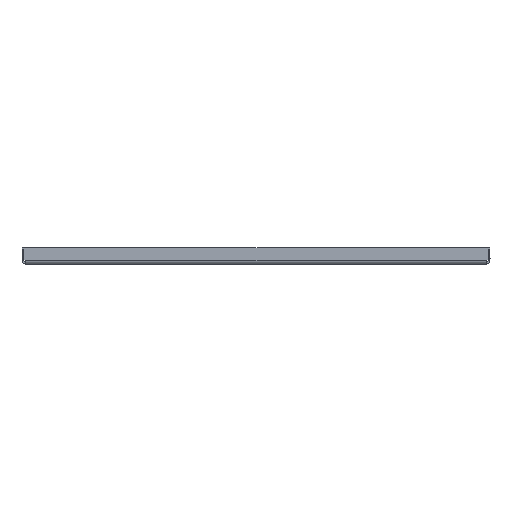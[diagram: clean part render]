
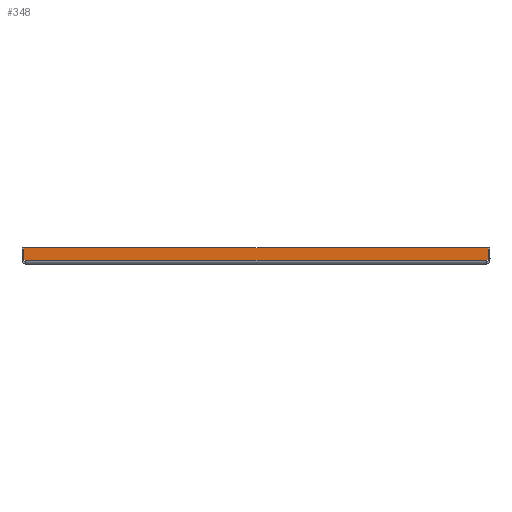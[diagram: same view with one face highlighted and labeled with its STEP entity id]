
A CAD part, front view. The second image highlights one B-rep face of the part: STEP entity #348.
In plain terms, the highlighted planar face has unit normal (0, -1, 0).
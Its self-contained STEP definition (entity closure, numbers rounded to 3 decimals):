
#36 = VERTEX_POINT ( 'NONE', #1349 ) ;
#64 = CARTESIAN_POINT ( 'NONE',  ( 2., -40.86, 2. ) ) ;
#79 = AXIS2_PLACEMENT_3D ( 'NONE', #1279, #215, #2183 ) ;
#215 = DIRECTION ( 'NONE',  ( 0., 1., 0. ) ) ;
#251 = ORIENTED_EDGE ( 'NONE', *, *, #2553, .F. ) ;
#328 = LINE ( 'NONE', #2481, #2557 ) ;
#332 = LINE ( 'NONE', #1853, #2686 ) ;
#348 = ADVANCED_FACE ( 'NONE', ( #642 ), #1484, .F. ) ;
#440 = EDGE_CURVE ( 'NONE', #1916, #1258, #659, .T. ) ;
#541 = CARTESIAN_POINT ( 'NONE',  ( 492.9, -40.86, 2. ) ) ;
#587 = EDGE_CURVE ( 'NONE', #1258, #36, #1847, .T. ) ;
#642 = FACE_OUTER_BOUND ( 'NONE', #2654, .T. ) ;
#659 = LINE ( 'NONE', #2113, #1970 ) ;
#672 = DIRECTION ( 'NONE',  ( 0., 0., 1. ) ) ;
#768 = CARTESIAN_POINT ( 'NONE',  ( 492.9, -40.86, 15. ) ) ;
#782 = DIRECTION ( 'NONE',  ( -1., 0., 0. ) ) ;
#797 = VECTOR ( 'NONE', #2006, 1000. ) ;
#858 = VECTOR ( 'NONE', #1100, 1000. ) ;
#882 = ORIENTED_EDGE ( 'NONE', *, *, #902, .T. ) ;
#902 = EDGE_CURVE ( 'NONE', #953, #1916, #332, .T. ) ;
#953 = VERTEX_POINT ( 'NONE', #2004 ) ;
#1100 = DIRECTION ( 'NONE',  ( -1., 0., 0. ) ) ;
#1214 = VERTEX_POINT ( 'NONE', #1395 ) ;
#1253 = EDGE_CURVE ( 'NONE', #953, #1214, #328, .T. ) ;
#1258 = VERTEX_POINT ( 'NONE', #768 ) ;
#1279 = CARTESIAN_POINT ( 'NONE',  ( 0., -40.86, 0. ) ) ;
#1296 = CARTESIAN_POINT ( 'NONE',  ( 0.1, -40.86, 2. ) ) ;
#1349 = CARTESIAN_POINT ( 'NONE',  ( 0.1, -40.86, 15. ) ) ;
#1395 = CARTESIAN_POINT ( 'NONE',  ( 2., -40.86, 2. ) ) ;
#1484 = PLANE ( 'NONE',  #79 ) ;
#1684 = DIRECTION ( 'NONE',  ( 0., 0., 1. ) ) ;
#1815 = CARTESIAN_POINT ( 'NONE',  ( 0., -40.86, 15. ) ) ;
#1847 = LINE ( 'NONE', #1815, #797 ) ;
#1853 = CARTESIAN_POINT ( 'NONE',  ( 491., -40.86, 2. ) ) ;
#1875 = LINE ( 'NONE', #1296, #1992 ) ;
#1916 = VERTEX_POINT ( 'NONE', #541 ) ;
#1970 = VECTOR ( 'NONE', #1684, 1000. ) ;
#1992 = VECTOR ( 'NONE', #672, 1000. ) ;
#2004 = CARTESIAN_POINT ( 'NONE',  ( 491., -40.86, 2. ) ) ;
#2006 = DIRECTION ( 'NONE',  ( -1., 0., 0. ) ) ;
#2113 = CARTESIAN_POINT ( 'NONE',  ( 492.9, -40.86, 2. ) ) ;
#2131 = ORIENTED_EDGE ( 'NONE', *, *, #440, .T. ) ;
#2142 = ORIENTED_EDGE ( 'NONE', *, *, #2384, .F. ) ;
#2179 = CARTESIAN_POINT ( 'NONE',  ( 0.1, -40.86, 2. ) ) ;
#2183 = DIRECTION ( 'NONE',  ( 0., 0., 1. ) ) ;
#2222 = ORIENTED_EDGE ( 'NONE', *, *, #1253, .F. ) ;
#2368 = ORIENTED_EDGE ( 'NONE', *, *, #587, .T. ) ;
#2384 = EDGE_CURVE ( 'NONE', #1214, #2503, #2606, .T. ) ;
#2481 = CARTESIAN_POINT ( 'NONE',  ( 2., -40.86, 2. ) ) ;
#2503 = VERTEX_POINT ( 'NONE', #2179 ) ;
#2553 = EDGE_CURVE ( 'NONE', #2503, #36, #1875, .T. ) ;
#2557 = VECTOR ( 'NONE', #782, 1000. ) ;
#2606 = LINE ( 'NONE', #64, #858 ) ;
#2654 = EDGE_LOOP ( 'NONE', ( #2222, #882, #2131, #2368, #251, #2142 ) ) ;
#2683 = DIRECTION ( 'NONE',  ( 1., 0., 0. ) ) ;
#2686 = VECTOR ( 'NONE', #2683, 1000. ) ;
